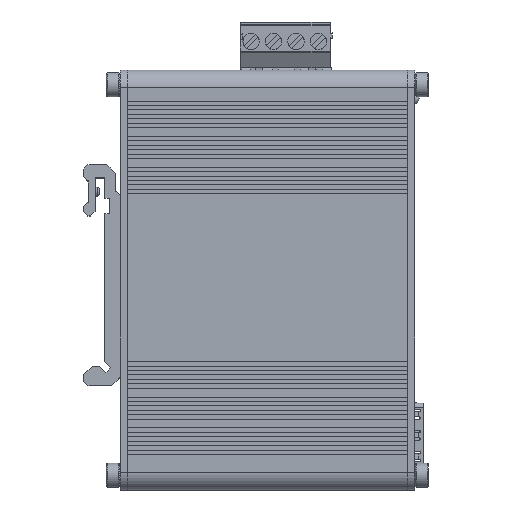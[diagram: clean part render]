
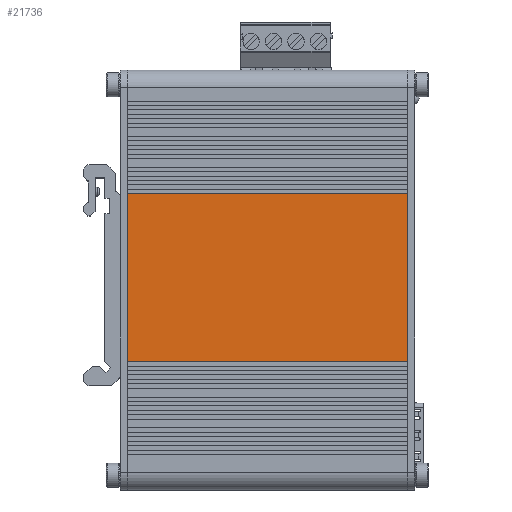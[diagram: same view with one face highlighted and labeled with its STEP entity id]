
A CAD part, top view. The second image highlights one B-rep face of the part: STEP entity #21736.
In plain terms, the highlighted planar face has unit normal (0, 0, 1).
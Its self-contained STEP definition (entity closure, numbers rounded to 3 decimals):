
#16623 = PLANE('',#16624);
#16624 = AXIS2_PLACEMENT_3D('',#16625,#16626,#16627);
#16625 = CARTESIAN_POINT('',(0.,6.,0.));
#16626 = DIRECTION('',(1.,0.,0.));
#16627 = DIRECTION('',(0.,0.,1.));
#18645 = VERTEX_POINT('',#18646);
#18646 = CARTESIAN_POINT('',(0.,73.,22.3));
#18659 = PLANE('',#18660);
#18660 = AXIS2_PLACEMENT_3D('',#18661,#18662,#18663);
#18661 = CARTESIAN_POINT('',(64.,73.,21.8));
#18662 = DIRECTION('',(0.,-1.,0.));
#18663 = DIRECTION('',(0.,0.,1.));
#18670 = EDGE_CURVE('',#18671,#18645,#18673,.T.);
#18671 = VERTEX_POINT('',#18672);
#18672 = CARTESIAN_POINT('',(0.,35.,22.3));
#18673 = SURFACE_CURVE('',#18674,(#18678,#18685),.PCURVE_S1.);
#18674 = LINE('',#18675,#18676);
#18675 = CARTESIAN_POINT('',(0.,6.,22.3));
#18676 = VECTOR('',#18677,1.);
#18677 = DIRECTION('',(0.,1.,0.));
#18678 = PCURVE('',#16623,#18679);
#18679 = DEFINITIONAL_REPRESENTATION('',(#18680),#18684);
#18680 = LINE('',#18681,#18682);
#18681 = CARTESIAN_POINT('',(22.3,0.));
#18682 = VECTOR('',#18683,1.);
#18683 = DIRECTION('',(0.,-1.));
#18684 = ( GEOMETRIC_REPRESENTATION_CONTEXT(2) 
PARAMETRIC_REPRESENTATION_CONTEXT() REPRESENTATION_CONTEXT('2D SPACE',''
  ) );
#18685 = PCURVE('',#18686,#18691);
#18686 = PLANE('',#18687);
#18687 = AXIS2_PLACEMENT_3D('',#18688,#18689,#18690);
#18688 = CARTESIAN_POINT('',(0.,6.,22.3));
#18689 = DIRECTION('',(0.,0.,1.));
#18690 = DIRECTION('',(1.,0.,0.));
#18691 = DEFINITIONAL_REPRESENTATION('',(#18692),#18696);
#18692 = LINE('',#18693,#18694);
#18693 = CARTESIAN_POINT('',(0.,0.));
#18694 = VECTOR('',#18695,1.);
#18695 = DIRECTION('',(0.,1.));
#18696 = ( GEOMETRIC_REPRESENTATION_CONTEXT(2) 
PARAMETRIC_REPRESENTATION_CONTEXT() REPRESENTATION_CONTEXT('2D SPACE',''
  ) );
#18713 = PLANE('',#18714);
#18714 = AXIS2_PLACEMENT_3D('',#18715,#18716,#18717);
#18715 = CARTESIAN_POINT('',(-1.,35.,21.8));
#18716 = DIRECTION('',(0.,1.,0.));
#18717 = DIRECTION('',(0.,0.,1.));
#19800 = PLANE('',#19801);
#19801 = AXIS2_PLACEMENT_3D('',#19802,#19803,#19804);
#19802 = CARTESIAN_POINT('',(63.5,6.,0.));
#19803 = DIRECTION('',(1.,0.,0.));
#19804 = DIRECTION('',(0.,0.,1.));
#21695 = EDGE_CURVE('',#18671,#21696,#21698,.T.);
#21696 = VERTEX_POINT('',#21697);
#21697 = CARTESIAN_POINT('',(63.5,35.,22.3));
#21698 = SURFACE_CURVE('',#21699,(#21703,#21710),.PCURVE_S1.);
#21699 = LINE('',#21700,#21701);
#21700 = CARTESIAN_POINT('',(-1.,35.,22.3));
#21701 = VECTOR('',#21702,1.);
#21702 = DIRECTION('',(1.,0.,0.));
#21703 = PCURVE('',#18713,#21704);
#21704 = DEFINITIONAL_REPRESENTATION('',(#21705),#21709);
#21705 = LINE('',#21706,#21707);
#21706 = CARTESIAN_POINT('',(0.5,0.));
#21707 = VECTOR('',#21708,1.);
#21708 = DIRECTION('',(0.,1.));
#21709 = ( GEOMETRIC_REPRESENTATION_CONTEXT(2) 
PARAMETRIC_REPRESENTATION_CONTEXT() REPRESENTATION_CONTEXT('2D SPACE',''
  ) );
#21710 = PCURVE('',#18686,#21711);
#21711 = DEFINITIONAL_REPRESENTATION('',(#21712),#21716);
#21712 = LINE('',#21713,#21714);
#21713 = CARTESIAN_POINT('',(-1.,29.));
#21714 = VECTOR('',#21715,1.);
#21715 = DIRECTION('',(1.,0.));
#21716 = ( GEOMETRIC_REPRESENTATION_CONTEXT(2) 
PARAMETRIC_REPRESENTATION_CONTEXT() REPRESENTATION_CONTEXT('2D SPACE',''
  ) );
#21736 = ADVANCED_FACE('',(#21737),#18686,.T.);
#21737 = FACE_BOUND('',#21738,.T.);
#21738 = EDGE_LOOP('',(#21739,#21740,#21741,#21764));
#21739 = ORIENTED_EDGE('',*,*,#18670,.F.);
#21740 = ORIENTED_EDGE('',*,*,#21695,.T.);
#21741 = ORIENTED_EDGE('',*,*,#21742,.T.);
#21742 = EDGE_CURVE('',#21696,#21743,#21745,.T.);
#21743 = VERTEX_POINT('',#21744);
#21744 = CARTESIAN_POINT('',(63.5,73.,22.3));
#21745 = SURFACE_CURVE('',#21746,(#21750,#21757),.PCURVE_S1.);
#21746 = LINE('',#21747,#21748);
#21747 = CARTESIAN_POINT('',(63.5,6.,22.3));
#21748 = VECTOR('',#21749,1.);
#21749 = DIRECTION('',(0.,1.,0.));
#21750 = PCURVE('',#18686,#21751);
#21751 = DEFINITIONAL_REPRESENTATION('',(#21752),#21756);
#21752 = LINE('',#21753,#21754);
#21753 = CARTESIAN_POINT('',(63.5,0.));
#21754 = VECTOR('',#21755,1.);
#21755 = DIRECTION('',(0.,1.));
#21756 = ( GEOMETRIC_REPRESENTATION_CONTEXT(2) 
PARAMETRIC_REPRESENTATION_CONTEXT() REPRESENTATION_CONTEXT('2D SPACE',''
  ) );
#21757 = PCURVE('',#19800,#21758);
#21758 = DEFINITIONAL_REPRESENTATION('',(#21759),#21763);
#21759 = LINE('',#21760,#21761);
#21760 = CARTESIAN_POINT('',(22.3,0.));
#21761 = VECTOR('',#21762,1.);
#21762 = DIRECTION('',(0.,-1.));
#21763 = ( GEOMETRIC_REPRESENTATION_CONTEXT(2) 
PARAMETRIC_REPRESENTATION_CONTEXT() REPRESENTATION_CONTEXT('2D SPACE',''
  ) );
#21764 = ORIENTED_EDGE('',*,*,#21765,.T.);
#21765 = EDGE_CURVE('',#21743,#18645,#21766,.T.);
#21766 = SURFACE_CURVE('',#21767,(#21771,#21778),.PCURVE_S1.);
#21767 = LINE('',#21768,#21769);
#21768 = CARTESIAN_POINT('',(64.,73.,22.3));
#21769 = VECTOR('',#21770,1.);
#21770 = DIRECTION('',(-1.,0.,0.));
#21771 = PCURVE('',#18686,#21772);
#21772 = DEFINITIONAL_REPRESENTATION('',(#21773),#21777);
#21773 = LINE('',#21774,#21775);
#21774 = CARTESIAN_POINT('',(64.,67.));
#21775 = VECTOR('',#21776,1.);
#21776 = DIRECTION('',(-1.,0.));
#21777 = ( GEOMETRIC_REPRESENTATION_CONTEXT(2) 
PARAMETRIC_REPRESENTATION_CONTEXT() REPRESENTATION_CONTEXT('2D SPACE',''
  ) );
#21778 = PCURVE('',#18659,#21779);
#21779 = DEFINITIONAL_REPRESENTATION('',(#21780),#21784);
#21780 = LINE('',#21781,#21782);
#21781 = CARTESIAN_POINT('',(0.5,0.));
#21782 = VECTOR('',#21783,1.);
#21783 = DIRECTION('',(0.,1.));
#21784 = ( GEOMETRIC_REPRESENTATION_CONTEXT(2) 
PARAMETRIC_REPRESENTATION_CONTEXT() REPRESENTATION_CONTEXT('2D SPACE',''
  ) );
